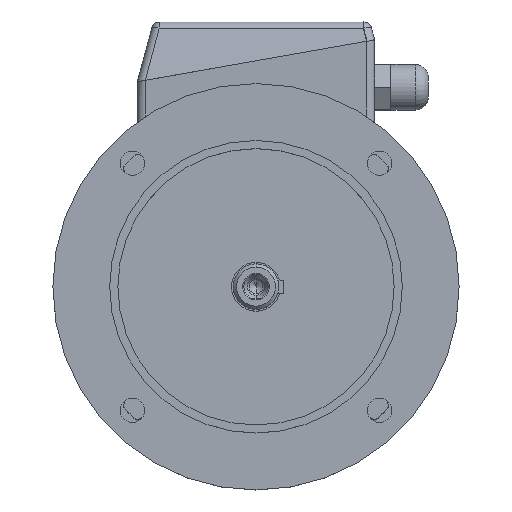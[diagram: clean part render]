
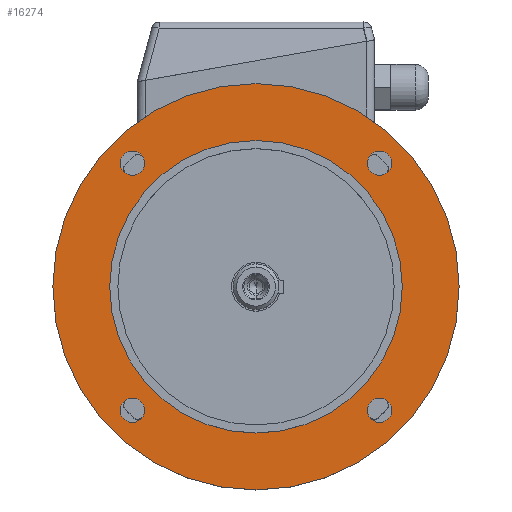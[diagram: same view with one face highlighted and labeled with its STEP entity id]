
A CAD part, top view. The second image highlights one B-rep face of the part: STEP entity #16274.
In plain terms, the highlighted planar face has unit normal (0, 0, 1).
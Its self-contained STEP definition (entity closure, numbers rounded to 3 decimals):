
#16405 = VERTEX_POINT ( 'NONE', #10474 ) ;
#16540 = EDGE_LOOP ( 'NONE', ( #16369, #4968 ) ) ;
#173 = VERTEX_POINT ( 'NONE', #17024 ) ;
#16608 = ORIENTED_EDGE ( 'NONE', *, *, #4922, .F. ) ;
#294 = CARTESIAN_POINT ( 'NONE',  ( 83.514, -76.014, 51. ) ) ;
#16791 = EDGE_CURVE ( 'NONE', #4656, #16405, #11747, .T. ) ;
#441 = CIRCLE ( 'NONE', #442, 7.5 ) ;
#442 = AXIS2_PLACEMENT_3D ( 'NONE', #443, #444, #454 ) ;
#443 = CARTESIAN_POINT ( 'NONE',  ( 76.014, -76.014, 51. ) ) ;
#444 = DIRECTION ( 'NONE',  ( 0., 0., 1. ) ) ;
#454 = DIRECTION ( 'NONE',  ( 1., 0., 0. ) ) ;
#16990 = ORIENTED_EDGE ( 'NONE', *, *, #16791, .F. ) ;
#17024 = CARTESIAN_POINT ( 'NONE',  ( -90., 0., 51. ) ) ;
#901 = CIRCLE ( 'NONE', #902, 7.5 ) ;
#902 = AXIS2_PLACEMENT_3D ( 'NONE', #903, #904, #905 ) ;
#903 = CARTESIAN_POINT ( 'NONE',  ( -76.014, 76.014, 51. ) ) ;
#904 = DIRECTION ( 'NONE',  ( 0., 0., 1. ) ) ;
#905 = DIRECTION ( 'NONE',  ( 1., 0., 0. ) ) ;
#17597 = EDGE_LOOP ( 'NONE', ( #16990, #16608 ) ) ;
#17877 = EDGE_CURVE ( 'NONE', #16117, #15137, #13737, .T. ) ;
#18319 = ORIENTED_EDGE ( 'NONE', *, *, #17877, .T. ) ;
#2488 = VERTEX_POINT ( 'NONE', #18873 ) ;
#18873 = CARTESIAN_POINT ( 'NONE',  ( 68.514, 76.014, 51. ) ) ;
#18918 = ORIENTED_EDGE ( 'NONE', *, *, #15395, .T. ) ;
#19532 = EDGE_LOOP ( 'NONE', ( #18918, #18319 ) ) ;
#19830 = EDGE_CURVE ( 'NONE', #173, #11826, #15528, .T. ) ;
#19855 = VERTEX_POINT ( 'NONE', #15555 ) ;
#20133 = EDGE_CURVE ( 'NONE', #2488, #19855, #15807, .T. ) ;
#4511 = CARTESIAN_POINT ( 'NONE',  ( -68.514, -76.014, 51. ) ) ;
#4656 = VERTEX_POINT ( 'NONE', #294 ) ;
#4712 = CIRCLE ( 'NONE', #4713, 7.5 ) ;
#4713 = AXIS2_PLACEMENT_3D ( 'NONE', #4714, #4715, #4716 ) ;
#4714 = CARTESIAN_POINT ( 'NONE',  ( -76.014, -76.014, 51. ) ) ;
#4715 = DIRECTION ( 'NONE',  ( 0., 0., 1. ) ) ;
#4716 = DIRECTION ( 'NONE',  ( 1., 0., 0. ) ) ;
#4922 = EDGE_CURVE ( 'NONE', #16405, #4656, #441, .T. ) ;
#4968 = ORIENTED_EDGE ( 'NONE', *, *, #13229, .F. ) ;
#5517 = CARTESIAN_POINT ( 'NONE',  ( -83.514, -76.014, 51. ) ) ;
#5548 = EDGE_CURVE ( 'NONE', #12961, #14279, #901, .T. ) ;
#5919 = CARTESIAN_POINT ( 'NONE',  ( 90., 0., 51. ) ) ;
#6093 = CIRCLE ( 'NONE', #6094, 90. ) ;
#6094 = AXIS2_PLACEMENT_3D ( 'NONE', #6095, #6096, #6097 ) ;
#6095 = CARTESIAN_POINT ( 'NONE',  ( 0., 0., 51. ) ) ;
#6096 = DIRECTION ( 'NONE',  ( 0., 0., 1. ) ) ;
#6097 = DIRECTION ( 'NONE',  ( 1., 0., 0. ) ) ;
#6812 = CARTESIAN_POINT ( 'NONE',  ( -68.514, 76.014, 51. ) ) ;
#6982 = CIRCLE ( 'NONE', #6983, 7.5 ) ;
#6983 = AXIS2_PLACEMENT_3D ( 'NONE', #6984, #6985, #6986 ) ;
#6984 = CARTESIAN_POINT ( 'NONE',  ( -76.014, 76.014, 51. ) ) ;
#6985 = DIRECTION ( 'NONE',  ( 0., 0., 1. ) ) ;
#6986 = DIRECTION ( 'NONE',  ( 1., 0., 0. ) ) ;
#7308 = CIRCLE ( 'NONE', #7309, 7.5 ) ;
#7309 = AXIS2_PLACEMENT_3D ( 'NONE', #7310, #7311, #7312 ) ;
#7310 = CARTESIAN_POINT ( 'NONE',  ( -76.014, -76.014, 51. ) ) ;
#7311 = DIRECTION ( 'NONE',  ( 0., 0., 1. ) ) ;
#7312 = DIRECTION ( 'NONE',  ( 1., 0., 0. ) ) ;
#7788 = CARTESIAN_POINT ( 'NONE',  ( -83.514, 76.014, 51. ) ) ;
#8470 = CARTESIAN_POINT ( 'NONE',  ( 125., 0., 51. ) ) ;
#8684 = CIRCLE ( 'NONE', #8685, 125. ) ;
#8685 = AXIS2_PLACEMENT_3D ( 'NONE', #8686, #8687, #8688 ) ;
#8686 = CARTESIAN_POINT ( 'NONE',  ( 0., 0., 51. ) ) ;
#8687 = DIRECTION ( 'NONE',  ( 0., 0., 1. ) ) ;
#8688 = DIRECTION ( 'NONE',  ( 1., 0., 0. ) ) ;
#8899 = CIRCLE ( 'NONE', #8900, 7.5 ) ;
#8900 = AXIS2_PLACEMENT_3D ( 'NONE', #8901, #8902, #8903 ) ;
#8901 = CARTESIAN_POINT ( 'NONE',  ( 76.014, 76.014, 51. ) ) ;
#8902 = DIRECTION ( 'NONE',  ( 0., 0., 1. ) ) ;
#8903 = DIRECTION ( 'NONE',  ( 1., 0., 0. ) ) ;
#9529 = CARTESIAN_POINT ( 'NONE',  ( -125., 0., 51. ) ) ;
#9924 = VERTEX_POINT ( 'NONE', #4511 ) ;
#9929 = FACE_BOUND ( 'NONE', #16212, .T. ) ;
#9930 = FACE_BOUND ( 'NONE', #14835, .T. ) ;
#9931 = FACE_BOUND ( 'NONE', #12679, .T. ) ;
#9932 = FACE_OUTER_BOUND ( 'NONE', #19532, .T. ) ;
#9933 = FACE_BOUND ( 'NONE', #17597, .T. ) ;
#9934 = FACE_BOUND ( 'NONE', #16540, .T. ) ;
#9935 = PLANE ( 'NONE',  #9936 ) ;
#9936 = AXIS2_PLACEMENT_3D ( 'NONE', #9937, #9938, #9939 ) ;
#9937 = CARTESIAN_POINT ( 'NONE',  ( 0., 125., 51. ) ) ;
#9938 = DIRECTION ( 'NONE',  ( 0., 0., -1. ) ) ;
#9939 = DIRECTION ( 'NONE',  ( -1., 0., 0. ) ) ;
#10198 = EDGE_CURVE ( 'NONE', #11274, #9924, #4712, .T. ) ;
#10474 = CARTESIAN_POINT ( 'NONE',  ( 68.514, -76.014, 51. ) ) ;
#11274 = VERTEX_POINT ( 'NONE', #5517 ) ;
#11641 = ORIENTED_EDGE ( 'NONE', *, *, #19830, .F. ) ;
#11747 = CIRCLE ( 'NONE', #11748, 7.5 ) ;
#11748 = AXIS2_PLACEMENT_3D ( 'NONE', #11749, #11754, #11755 ) ;
#11749 = CARTESIAN_POINT ( 'NONE',  ( 76.014, -76.014, 51. ) ) ;
#11754 = DIRECTION ( 'NONE',  ( 0., 0., 1. ) ) ;
#11755 = DIRECTION ( 'NONE',  ( 1., 0., 0. ) ) ;
#11826 = VERTEX_POINT ( 'NONE', #5919 ) ;
#12066 = ORIENTED_EDGE ( 'NONE', *, *, #12086, .F. ) ;
#12086 = EDGE_CURVE ( 'NONE', #11826, #173, #6093, .T. ) ;
#12679 = EDGE_LOOP ( 'NONE', ( #12066, #11641 ) ) ;
#12961 = VERTEX_POINT ( 'NONE', #6812 ) ;
#12986 = ORIENTED_EDGE ( 'NONE', *, *, #10198, .F. ) ;
#13229 = EDGE_CURVE ( 'NONE', #14279, #12961, #6982, .T. ) ;
#13611 = EDGE_CURVE ( 'NONE', #9924, #11274, #7308, .T. ) ;
#13737 = CIRCLE ( 'NONE', #13738, 125. ) ;
#13738 = AXIS2_PLACEMENT_3D ( 'NONE', #13739, #13740, #13741 ) ;
#13739 = CARTESIAN_POINT ( 'NONE',  ( 0., 0., 51. ) ) ;
#13740 = DIRECTION ( 'NONE',  ( 0., 0., 1. ) ) ;
#13741 = DIRECTION ( 'NONE',  ( 1., 0., 0. ) ) ;
#14039 = ORIENTED_EDGE ( 'NONE', *, *, #13611, .F. ) ;
#14279 = VERTEX_POINT ( 'NONE', #7788 ) ;
#14835 = EDGE_LOOP ( 'NONE', ( #14039, #12986 ) ) ;
#15114 = ORIENTED_EDGE ( 'NONE', *, *, #20133, .F. ) ;
#15137 = VERTEX_POINT ( 'NONE', #8470 ) ;
#15395 = EDGE_CURVE ( 'NONE', #15137, #16117, #8684, .T. ) ;
#15528 = CIRCLE ( 'NONE', #15529, 90. ) ;
#15529 = AXIS2_PLACEMENT_3D ( 'NONE', #15530, #15531, #15532 ) ;
#15530 = CARTESIAN_POINT ( 'NONE',  ( 0., 0., 51. ) ) ;
#15531 = DIRECTION ( 'NONE',  ( 0., 0., 1. ) ) ;
#15532 = DIRECTION ( 'NONE',  ( 1., 0., 0. ) ) ;
#15555 = CARTESIAN_POINT ( 'NONE',  ( 83.514, 76.014, 51. ) ) ;
#15727 = EDGE_CURVE ( 'NONE', #19855, #2488, #8899, .T. ) ;
#15807 = CIRCLE ( 'NONE', #15811, 7.5 ) ;
#15811 = AXIS2_PLACEMENT_3D ( 'NONE', #15812, #15813, #15814 ) ;
#15812 = CARTESIAN_POINT ( 'NONE',  ( 76.014, 76.014, 51. ) ) ;
#15813 = DIRECTION ( 'NONE',  ( 0., 0., 1. ) ) ;
#15814 = DIRECTION ( 'NONE',  ( 1., 0., 0. ) ) ;
#16025 = ORIENTED_EDGE ( 'NONE', *, *, #15727, .F. ) ;
#16117 = VERTEX_POINT ( 'NONE', #9529 ) ;
#16212 = EDGE_LOOP ( 'NONE', ( #16025, #15114 ) ) ;
#16274 = ADVANCED_FACE ( 'NONE', ( #9929, #9930, #9931, #9932, #9933, #9934 ), #9935, .F. ) ;
#16369 = ORIENTED_EDGE ( 'NONE', *, *, #5548, .F. ) ;
